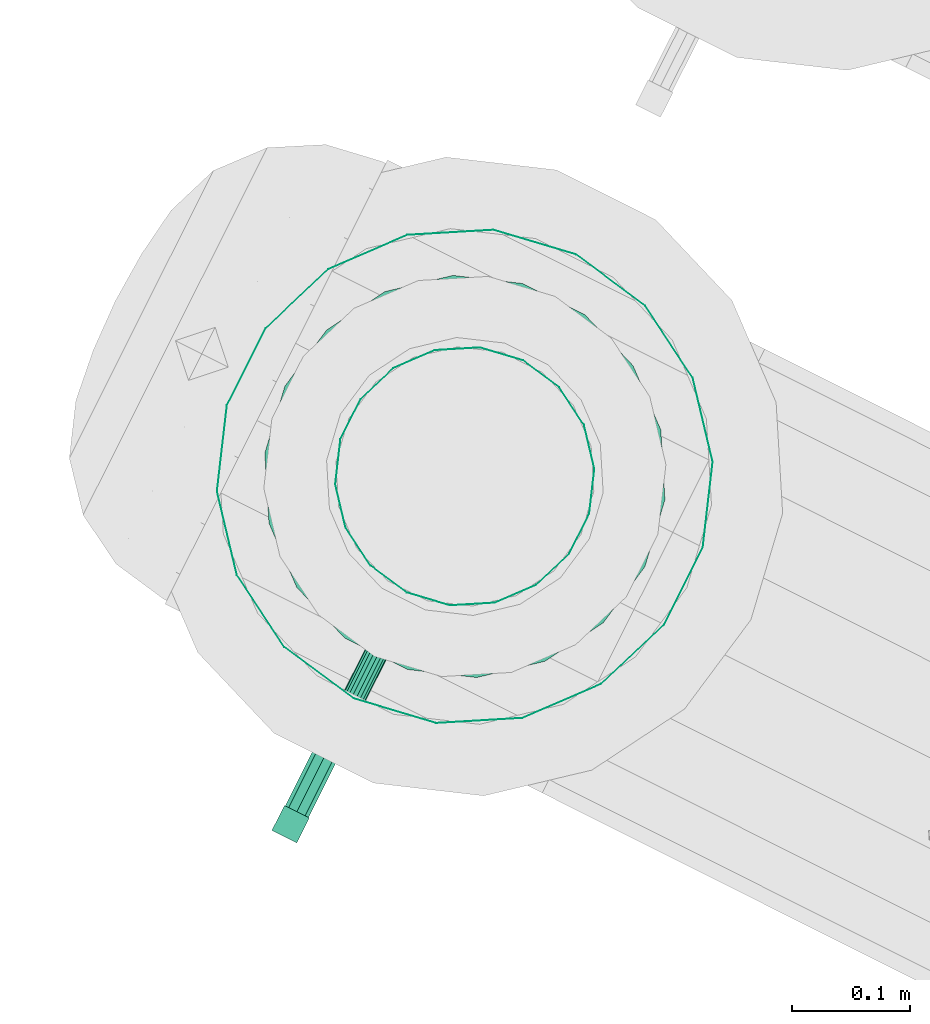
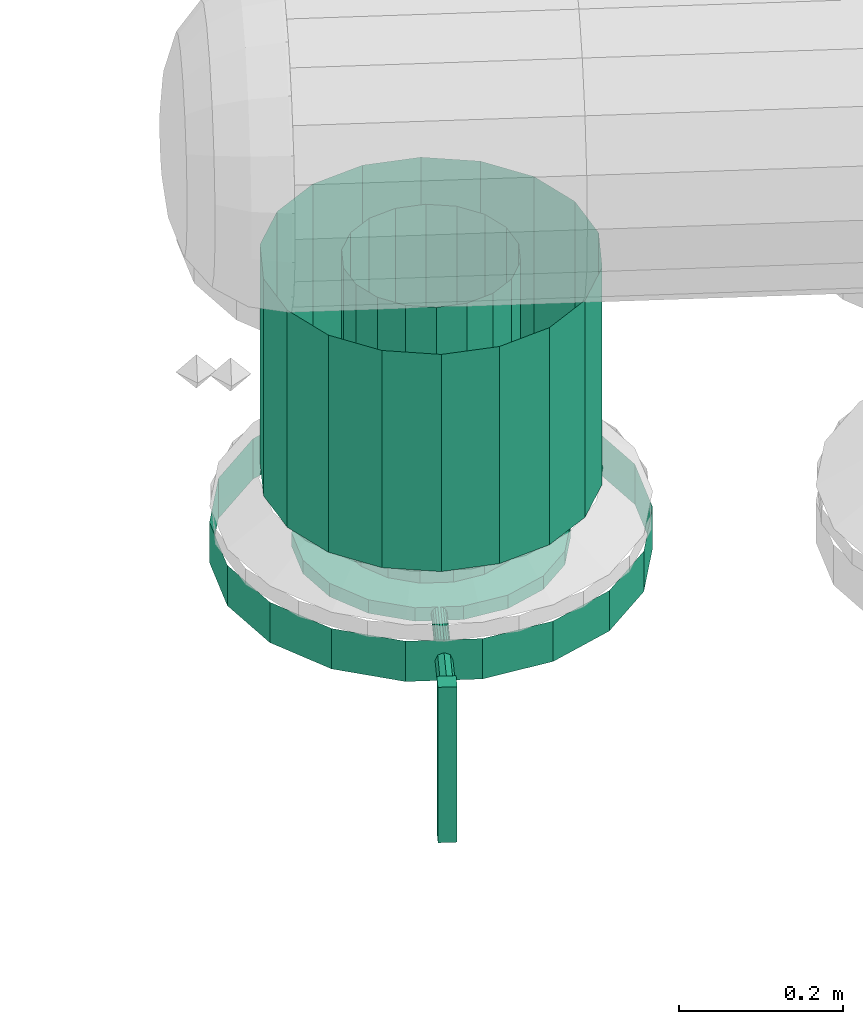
# One storey, part 88 of 152: 1 flow controller, 1 flow segment.
"""IFC2X3 building model written with IfcOpenShell, lengths in metres."""

from ifc_helpers import new_model, si_unit, derived_unit, direction, frame, origin, place, context, subcontext, project, spatial, face_set, surface_model, source, transform, mapped, material, type_object, type_shapes, element, save


model = new_model("IFC2X3")

# Units and contexts
model_context = context("Model", 3, precision=5.2338327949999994e-05, world=origin(), true_north=direction((0.0, 1.0)))
body_context = subcontext(model_context, "Body", "Model", "MODEL_VIEW")
ifc_project = project(units=[si_unit("LENGTHUNIT", "METRE"), si_unit("AREAUNIT", "SQUARE_METRE"), si_unit("VOLUMEUNIT", "CUBIC_METRE"), si_unit("MASSUNIT", "GRAM", prefix="KILO"), si_unit("PLANEANGLEUNIT", "RADIAN"), derived_unit("THERMALTRANSMITTANCEUNIT", [(si_unit("MASSUNIT", "GRAM", prefix="KILO"), 1), (si_unit("THERMODYNAMICTEMPERATUREUNIT", "KELVIN"), -1), (si_unit("TIMEUNIT", "SECOND"), -3)])], contexts=[model_context])

# Site, building, storey
site_placement = place(None, frame((0.0, 0.0, 0.0), z_axis=(0.0, 0.0, 1.0), x_axis=(0.8939966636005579, -0.4480736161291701, 0.0)))
site = spatial("IfcSite", under=ifc_project, at=site_placement, Name="Default", CompositionType="ELEMENT")
building_placement = place(site_placement, origin())
building = spatial("IfcBuilding", under=site, at=building_placement, CompositionType="ELEMENT")
storey_placement = place(building_placement, frame((0.0, 0.0, 2.7499999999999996)))
storey = spatial("IfcBuildingStorey", under=building, at=storey_placement, Name="1. Obergeschoss", CompositionType="ELEMENT", Elevation=2.7499999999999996)

# Flow controller
ifc_material = material(Name="IfcSurfaceStyle #9317")
distribution_element_type_1 = type_object("IfcDistributionElementType", Name="Zwischenflanschklappe 245512:Zwischenflanschklappe 245512", material=ifc_material)
shared_shape_1 = source(origin(), body_context, "Body", "SurfaceModel", [
    surface_model("IfcFaceBasedSurfaceModel", [(5.111016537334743, 7.010708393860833, 4.741522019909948), (5.111016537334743, 7.010708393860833, 4.9723720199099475), (5.1345165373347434, 7.010708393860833, 4.9723720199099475), (5.1345165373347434, 7.010708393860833, 4.741522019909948), (5.1345165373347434, 6.987208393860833, 4.9723720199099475), (5.1345165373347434, 6.987208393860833, 4.741522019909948), (5.111016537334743, 6.987208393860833, 4.9723720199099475), (5.111016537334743, 6.987208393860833, 4.741522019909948), (5.240266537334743, 7.3272083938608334, 4.930622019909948), (5.233180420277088, 7.367395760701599, 4.930622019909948), (5.233180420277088, 7.367395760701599, 4.9506220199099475), (5.240266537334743, 7.3272083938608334, 4.9506220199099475), (5.212776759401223, 7.402735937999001, 4.930622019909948), (5.212776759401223, 7.402735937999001, 4.9506220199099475), (5.181516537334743, 7.428966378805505, 4.930622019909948), (5.181516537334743, 7.428966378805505, 4.9506220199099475), (5.1431701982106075, 7.442923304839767, 4.930622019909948), (5.1431701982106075, 7.442923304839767, 4.9506220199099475), (5.102362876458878, 7.442923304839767, 4.930622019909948), (5.102362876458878, 7.442923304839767, 4.9506220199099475), (5.0640165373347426, 7.428966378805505, 4.930622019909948), (5.0640165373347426, 7.428966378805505, 4.9506220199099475), (5.032756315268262, 7.402735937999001, 4.930622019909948), (5.032756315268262, 7.402735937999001, 4.9506220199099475), (5.012352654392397, 7.367395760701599, 4.930622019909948), (5.012352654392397, 7.367395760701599, 4.9506220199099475), (5.005266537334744, 7.3272083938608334, 4.930622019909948), (5.005266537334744, 7.3272083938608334, 4.9506220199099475), (5.012352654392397, 7.287021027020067, 4.930622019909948), (5.012352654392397, 7.287021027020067, 4.9506220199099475), (5.032756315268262, 7.251680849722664, 4.930622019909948), (5.032756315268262, 7.251680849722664, 4.9506220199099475), (5.0640165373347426, 7.22545040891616, 4.930622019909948), (5.0640165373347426, 7.22545040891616, 4.9506220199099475), (5.102362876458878, 7.211493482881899, 4.930622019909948), (5.102362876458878, 7.211493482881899, 4.9506220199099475), (5.1431701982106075, 7.211493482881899, 4.930622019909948), (5.1431701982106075, 7.211493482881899, 4.9506220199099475), (5.181516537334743, 7.225450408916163, 4.930622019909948), (5.181516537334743, 7.225450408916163, 4.9506220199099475), (5.212776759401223, 7.251680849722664, 4.930622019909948), (5.212776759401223, 7.251680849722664, 4.9506220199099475), (5.233180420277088, 7.287021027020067, 4.930622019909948), (5.233180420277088, 7.287021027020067, 4.9506220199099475), (5.122766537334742, 7.3272083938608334, 4.930622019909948), (5.122766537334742, 7.3272083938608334, 4.9506220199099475), (5.292766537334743, 7.3272083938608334, 4.9506220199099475), (5.282514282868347, 7.385351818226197, 4.9506220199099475), (5.282514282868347, 7.385351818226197, 4.970622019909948), (5.292766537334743, 7.3272083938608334, 4.970622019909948), (5.252994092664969, 7.436482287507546, 4.9506220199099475), (5.252994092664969, 7.436482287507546, 4.970622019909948), (5.207766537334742, 7.4744327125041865, 4.9506220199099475), (5.207766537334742, 7.4744327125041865, 4.970622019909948), (5.152286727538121, 7.494625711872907, 4.9506220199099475), (5.152286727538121, 7.494625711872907, 4.970622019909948), (5.093246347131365, 7.494625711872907, 4.9506220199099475), (5.093246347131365, 7.494625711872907, 4.970622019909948), (5.037766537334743, 7.4744327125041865, 4.9506220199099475), (5.037766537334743, 7.4744327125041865, 4.970622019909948), (4.992538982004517, 7.436482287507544, 4.9506220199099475), (4.992538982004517, 7.436482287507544, 4.970622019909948), (4.9630187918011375, 7.385351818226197, 4.9506220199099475), (4.9630187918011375, 7.385351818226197, 4.970622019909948), (4.952766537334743, 7.3272083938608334, 4.9506220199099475), (4.952766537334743, 7.3272083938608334, 4.970622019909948), (4.9630187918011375, 7.269064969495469, 4.9506220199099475), (4.9630187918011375, 7.269064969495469, 4.970622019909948), (4.992538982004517, 7.21793450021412, 4.9506220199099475), (4.992538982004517, 7.21793450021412, 4.970622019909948), (5.037766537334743, 7.179984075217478, 4.9506220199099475), (5.037766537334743, 7.179984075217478, 4.970622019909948), (5.093246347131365, 7.159791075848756, 4.9506220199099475), (5.093246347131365, 7.159791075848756, 4.970622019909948), (5.152286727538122, 7.159791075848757, 4.9506220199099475), (5.152286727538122, 7.159791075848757, 4.970622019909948), (5.207766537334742, 7.179984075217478, 4.9506220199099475), (5.207766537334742, 7.179984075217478, 4.970622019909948), (5.252994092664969, 7.217934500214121, 4.9506220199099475), (5.252994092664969, 7.217934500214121, 4.970622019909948), (5.282514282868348, 7.269064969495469, 4.9506220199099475), (5.282514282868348, 7.269064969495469, 4.970622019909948), (5.122766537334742, 7.3272083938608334, 4.970622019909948), (5.240266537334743, 7.3272083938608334, 4.970622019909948), (5.233180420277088, 7.367395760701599, 4.970622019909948), (5.233180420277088, 7.367395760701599, 4.990622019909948), (5.240266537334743, 7.3272083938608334, 4.990622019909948), (5.212776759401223, 7.402735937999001, 4.970622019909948), (5.212776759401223, 7.402735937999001, 4.990622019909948), (5.181516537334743, 7.428966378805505, 4.970622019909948), (5.181516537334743, 7.428966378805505, 4.990622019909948), (5.1431701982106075, 7.442923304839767, 4.970622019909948), (5.1431701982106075, 7.442923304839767, 4.990622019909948), (5.102362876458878, 7.442923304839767, 4.970622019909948), (5.102362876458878, 7.442923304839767, 4.990622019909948), (5.0640165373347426, 7.428966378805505, 4.970622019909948), (5.0640165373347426, 7.428966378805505, 4.990622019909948), (5.032756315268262, 7.402735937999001, 4.970622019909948), (5.032756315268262, 7.402735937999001, 4.990622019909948), (5.012352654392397, 7.367395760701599, 4.970622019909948), (5.012352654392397, 7.367395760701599, 4.990622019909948), (5.005266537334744, 7.3272083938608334, 4.970622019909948), (5.005266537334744, 7.3272083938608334, 4.990622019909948), (5.012352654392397, 7.287021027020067, 4.970622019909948), (5.012352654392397, 7.287021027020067, 4.990622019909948), (5.032756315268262, 7.251680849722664, 4.970622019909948), (5.032756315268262, 7.251680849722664, 4.990622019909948), (5.0640165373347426, 7.22545040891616, 4.970622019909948), (5.0640165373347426, 7.22545040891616, 4.990622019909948), (5.102362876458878, 7.211493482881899, 4.970622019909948), (5.102362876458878, 7.211493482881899, 4.990622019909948), (5.1431701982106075, 7.211493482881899, 4.970622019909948), (5.1431701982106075, 7.211493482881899, 4.990622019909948), (5.181516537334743, 7.225450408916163, 4.970622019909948), (5.181516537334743, 7.225450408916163, 4.990622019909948), (5.212776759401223, 7.251680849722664, 4.970622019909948), (5.212776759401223, 7.251680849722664, 4.990622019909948), (5.233180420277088, 7.287021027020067, 4.970622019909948), (5.233180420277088, 7.287021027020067, 4.990622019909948), (5.122766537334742, 7.3272083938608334, 4.990622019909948), (5.132766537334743, 7.3272083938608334, 4.960622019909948), (5.132163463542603, 7.3272083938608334, 4.964042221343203), (5.132163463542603, 7.083958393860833, 4.964042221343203), (5.132766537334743, 7.083958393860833, 4.960622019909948), (5.1304269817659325, 7.3272083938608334, 4.967049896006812), (5.1304269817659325, 7.083958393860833, 4.967049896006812), (5.127766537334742, 7.3272083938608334, 4.969282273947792), (5.127766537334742, 7.083958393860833, 4.969282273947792), (5.124503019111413, 7.3272083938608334, 4.97047009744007), (5.124503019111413, 7.083958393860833, 4.97047009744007), (5.121030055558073, 7.3272083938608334, 4.97047009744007), (5.121030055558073, 7.083958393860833, 4.97047009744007), (5.117766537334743, 7.3272083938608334, 4.969282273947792), (5.117766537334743, 7.083958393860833, 4.969282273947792), (5.115106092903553, 7.3272083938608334, 4.967049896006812), (5.115106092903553, 7.083958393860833, 4.967049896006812), (5.113369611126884, 7.3272083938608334, 4.964042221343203), (5.113369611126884, 7.083958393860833, 4.964042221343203), (5.1127665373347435, 7.3272083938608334, 4.960622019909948), (5.1127665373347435, 7.083958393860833, 4.960622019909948), (5.113369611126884, 7.3272083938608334, 4.957201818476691), (5.113369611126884, 7.083958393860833, 4.957201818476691), (5.115106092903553, 7.3272083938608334, 4.9541941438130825), (5.115106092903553, 7.083958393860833, 4.9541941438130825), (5.117766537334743, 7.3272083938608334, 4.951961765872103), (5.117766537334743, 7.083958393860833, 4.951961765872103), (5.121030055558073, 7.3272083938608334, 4.950773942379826), (5.121030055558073, 7.083958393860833, 4.950773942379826), (5.124503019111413, 7.3272083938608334, 4.950773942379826), (5.124503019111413, 7.083958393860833, 4.950773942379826), (5.127766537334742, 7.3272083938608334, 4.951961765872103), (5.127766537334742, 7.083958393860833, 4.951961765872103), (5.1304269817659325, 7.3272083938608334, 4.9541941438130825), (5.1304269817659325, 7.083958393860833, 4.9541941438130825), (5.132163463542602, 7.3272083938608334, 4.957201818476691), (5.132163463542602, 7.083958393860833, 4.957201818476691), (5.122766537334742, 7.3272083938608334, 4.960622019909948), (5.122766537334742, 7.083958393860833, 4.960622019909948), (5.133721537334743, 7.083958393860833, 4.960622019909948), (5.130512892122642, 7.083958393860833, 4.968368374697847), (5.130512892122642, 7.010708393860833, 4.968368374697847), (5.133721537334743, 7.010708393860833, 4.960622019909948), (5.122766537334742, 7.083958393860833, 4.971577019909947), (5.122766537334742, 7.010708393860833, 4.971577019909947), (5.115020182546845, 7.083958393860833, 4.968368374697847), (5.115020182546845, 7.010708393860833, 4.968368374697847), (5.111811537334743, 7.083958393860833, 4.960622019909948), (5.111811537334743, 7.010708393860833, 4.960622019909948), (5.115020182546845, 7.083958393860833, 4.952875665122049), (5.115020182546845, 7.010708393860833, 4.952875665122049), (5.122766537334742, 7.083958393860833, 4.949667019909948), (5.122766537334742, 7.010708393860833, 4.949667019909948), (5.130512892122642, 7.083958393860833, 4.952875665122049), (5.130512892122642, 7.010708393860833, 4.952875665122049), (5.122766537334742, 7.010708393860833, 4.960622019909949), (5.392766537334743, 7.3272083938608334, 4.930622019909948), (5.376483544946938, 7.419553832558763, 4.930622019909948), (5.376483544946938, 7.419553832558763, 4.990622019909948), (5.392766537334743, 7.3272083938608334, 4.990622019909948), (5.329598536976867, 7.500761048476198, 4.930622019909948), (5.329598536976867, 7.500761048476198, 4.990622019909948), (5.257766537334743, 7.561035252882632, 4.930622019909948), (5.257766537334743, 7.561035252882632, 4.990622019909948), (5.169651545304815, 7.593106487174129, 4.930622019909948), (5.169651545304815, 7.593106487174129, 4.990622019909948), (5.075881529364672, 7.593106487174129, 4.930622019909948), (5.075881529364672, 7.593106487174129, 4.990622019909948), (4.987766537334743, 7.561035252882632, 4.930622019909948), (4.987766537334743, 7.561035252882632, 4.990622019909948), (4.915934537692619, 7.500761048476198, 4.930622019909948), (4.915934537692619, 7.500761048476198, 4.990622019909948), (4.869049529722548, 7.419553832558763, 4.930622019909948), (4.869049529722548, 7.419553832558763, 4.990622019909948), (4.852766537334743, 7.3272083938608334, 4.930622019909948), (4.852766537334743, 7.3272083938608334, 4.990622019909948), (4.869049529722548, 7.234862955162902, 4.930622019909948), (4.869049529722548, 7.234862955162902, 4.990622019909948), (4.915934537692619, 7.153655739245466, 4.930622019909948), (4.915934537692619, 7.153655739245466, 4.990622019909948), (4.987766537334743, 7.093381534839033, 4.930622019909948), (4.987766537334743, 7.093381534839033, 4.990622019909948), (5.075881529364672, 7.061310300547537, 4.930622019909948), (5.075881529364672, 7.061310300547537, 4.990622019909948), (5.169651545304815, 7.061310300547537, 4.930622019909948), (5.169651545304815, 7.061310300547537, 4.990622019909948), (5.257766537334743, 7.093381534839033, 4.930622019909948), (5.257766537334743, 7.093381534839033, 4.990622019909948), (5.329598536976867, 7.153655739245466, 4.930622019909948), (5.329598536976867, 7.153655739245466, 4.990622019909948), (5.376483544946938, 7.234862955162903, 4.930622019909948), (5.376483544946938, 7.234862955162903, 4.990622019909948)], [face_set([[[0, 1, 2, 3]], [[3, 2, 4, 5]], [[5, 4, 6, 7]], [[7, 6, 1, 0]], [[0, 3, 5, 7]], [[6, 4, 2, 1]], [[8, 9, 10, 11]], [[9, 12, 13, 10]], [[12, 14, 15, 13]], [[14, 16, 17, 15]], [[16, 18, 19, 17]], [[18, 20, 21, 19]], [[20, 22, 23, 21]], [[22, 24, 25, 23]], [[24, 26, 27, 25]], [[26, 28, 29, 27]], [[28, 30, 31, 29]], [[30, 32, 33, 31]], [[32, 34, 35, 33]], [[34, 36, 37, 35]], [[36, 38, 39, 37]], [[38, 40, 41, 39]], [[40, 42, 43, 41]], [[42, 8, 11, 43]], [[44, 9, 8]], [[44, 12, 9]], [[44, 14, 12]], [[44, 16, 14]], [[44, 18, 16]], [[44, 20, 18]], [[44, 22, 20]], [[44, 24, 22]], [[44, 26, 24]], [[44, 28, 26]], [[44, 30, 28]], [[44, 32, 30]], [[44, 34, 32]], [[44, 36, 34]], [[44, 38, 36]], [[44, 40, 38]], [[44, 42, 40]], [[44, 8, 42]], [[45, 43, 11]], [[45, 41, 43]], [[45, 39, 41]], [[45, 37, 39]], [[45, 35, 37]], [[45, 33, 35]], [[45, 31, 33]], [[45, 29, 31]], [[45, 27, 29]], [[45, 25, 27]], [[45, 23, 25]], [[45, 21, 23]], [[45, 19, 21]], [[45, 17, 19]], [[45, 15, 17]], [[45, 13, 15]], [[45, 10, 13]], [[45, 11, 10]], [[46, 47, 48, 49]], [[47, 50, 51, 48]], [[50, 52, 53, 51]], [[52, 54, 55, 53]], [[54, 56, 57, 55]], [[56, 58, 59, 57]], [[58, 60, 61, 59]], [[60, 62, 63, 61]], [[62, 64, 65, 63]], [[64, 66, 67, 65]], [[66, 68, 69, 67]], [[68, 70, 71, 69]], [[70, 72, 73, 71]], [[72, 74, 75, 73]], [[74, 76, 77, 75]], [[76, 78, 79, 77]], [[78, 80, 81, 79]], [[80, 46, 49, 81]], [[45, 47, 46]], [[45, 50, 47]], [[45, 52, 50]], [[45, 54, 52]], [[45, 56, 54]], [[45, 58, 56]], [[45, 60, 58]], [[45, 62, 60]], [[45, 64, 62]], [[45, 66, 64]], [[45, 68, 66]], [[45, 70, 68]], [[45, 72, 70]], [[45, 74, 72]], [[45, 76, 74]], [[45, 78, 76]], [[45, 80, 78]], [[45, 46, 80]], [[82, 81, 49]], [[82, 79, 81]], [[82, 77, 79]], [[82, 75, 77]], [[82, 73, 75]], [[82, 71, 73]], [[82, 69, 71]], [[82, 67, 69]], [[82, 65, 67]], [[82, 63, 65]], [[82, 61, 63]], [[82, 59, 61]], [[82, 57, 59]], [[82, 55, 57]], [[82, 53, 55]], [[82, 51, 53]], [[82, 48, 51]], [[82, 49, 48]], [[83, 84, 85, 86]], [[84, 87, 88, 85]], [[87, 89, 90, 88]], [[89, 91, 92, 90]], [[91, 93, 94, 92]], [[93, 95, 96, 94]], [[95, 97, 98, 96]], [[97, 99, 100, 98]], [[99, 101, 102, 100]], [[101, 103, 104, 102]], [[103, 105, 106, 104]], [[105, 107, 108, 106]], [[107, 109, 110, 108]], [[109, 111, 112, 110]], [[111, 113, 114, 112]], [[113, 115, 116, 114]], [[115, 117, 118, 116]], [[117, 83, 86, 118]], [[82, 84, 83]], [[82, 87, 84]], [[82, 89, 87]], [[82, 91, 89]], [[82, 93, 91]], [[82, 95, 93]], [[82, 97, 95]], [[82, 99, 97]], [[82, 101, 99]], [[82, 103, 101]], [[82, 105, 103]], [[82, 107, 105]], [[82, 109, 107]], [[82, 111, 109]], [[82, 113, 111]], [[82, 115, 113]], [[82, 117, 115]], [[82, 83, 117]], [[119, 118, 86]], [[119, 116, 118]], [[119, 114, 116]], [[119, 112, 114]], [[119, 110, 112]], [[119, 108, 110]], [[119, 106, 108]], [[119, 104, 106]], [[119, 102, 104]], [[119, 100, 102]], [[119, 98, 100]], [[119, 96, 98]], [[119, 94, 96]], [[119, 92, 94]], [[119, 90, 92]], [[119, 88, 90]], [[119, 85, 88]], [[119, 86, 85]], [[120, 121, 122, 123]], [[121, 124, 125, 122]], [[124, 126, 127, 125]], [[126, 128, 129, 127]], [[128, 130, 131, 129]], [[130, 132, 133, 131]], [[132, 134, 135, 133]], [[134, 136, 137, 135]], [[136, 138, 139, 137]], [[138, 140, 141, 139]], [[140, 142, 143, 141]], [[142, 144, 145, 143]], [[144, 146, 147, 145]], [[146, 148, 149, 147]], [[148, 150, 151, 149]], [[150, 152, 153, 151]], [[152, 154, 155, 153]], [[154, 120, 123, 155]], [[156, 121, 120]], [[156, 124, 121]], [[156, 126, 124]], [[156, 128, 126]], [[156, 130, 128]], [[156, 132, 130]], [[156, 134, 132]], [[156, 136, 134]], [[156, 138, 136]], [[156, 140, 138]], [[156, 142, 140]], [[156, 144, 142]], [[156, 146, 144]], [[156, 148, 146]], [[156, 150, 148]], [[156, 152, 150]], [[156, 154, 152]], [[156, 120, 154]], [[157, 155, 123]], [[157, 153, 155]], [[157, 151, 153]], [[157, 149, 151]], [[157, 147, 149]], [[157, 145, 147]], [[157, 143, 145]], [[157, 141, 143]], [[157, 139, 141]], [[157, 137, 139]], [[157, 135, 137]], [[157, 133, 135]], [[157, 131, 133]], [[157, 129, 131]], [[157, 127, 129]], [[157, 125, 127]], [[157, 122, 125]], [[157, 123, 122]], [[158, 159, 160, 161]], [[159, 162, 163, 160]], [[162, 164, 165, 163]], [[164, 166, 167, 165]], [[166, 168, 169, 167]], [[168, 170, 171, 169]], [[170, 172, 173, 171]], [[172, 158, 161, 173]], [[174, 173, 161]], [[174, 171, 173]], [[174, 169, 171]], [[174, 167, 169]], [[174, 165, 167]], [[174, 163, 165]], [[174, 160, 163]], [[174, 161, 160]], [[175, 176, 177, 178]], [[176, 179, 180, 177]], [[179, 181, 182, 180]], [[181, 183, 184, 182]], [[183, 185, 186, 184]], [[185, 187, 188, 186]], [[187, 189, 190, 188]], [[189, 191, 192, 190]], [[191, 193, 194, 192]], [[193, 195, 196, 194]], [[195, 197, 198, 196]], [[197, 199, 200, 198]], [[199, 201, 202, 200]], [[201, 203, 204, 202]], [[203, 205, 206, 204]], [[205, 207, 208, 206]], [[207, 209, 210, 208]], [[209, 175, 178, 210]]])]),
])
type_shapes(distribution_element_type_1, [shared_shape_1])
flow_controller_placement = place(storey_placement, frame((0.0, 0.0, -2.7499999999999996)))
element("IfcFlowController", 1, at=flow_controller_placement, inside=storey, type_object=distribution_element_type_1, material=ifc_material, Name="Zwischenflanschklappe", ObjectType="Zwischenflanschklappe", context=body_context, shape_type="MappedRepresentation", body=[
    mapped(shared_shape_1, transform((0.0, 0.0, 0.0), scale=1.0)),
])

# Flow segment
distribution_element_type_2 = type_object("IfcDistributionElementType", Name="Stahlrohr nach DIN 2448 245535:Stahlrohr nach DIN 2448 245535", material=ifc_material)
shared_shape_2 = source(origin(), body_context, "Body", "SurfaceModel", [
    surface_model("IfcFaceBasedSurfaceModel", [(5.122766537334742, 7.217658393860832, 5.375028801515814), (5.085298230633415, 7.224265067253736, 5.375028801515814), (5.085298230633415, 7.224265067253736, 5.052622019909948), (5.122766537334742, 7.217658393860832, 5.052622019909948), (5.052349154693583, 7.243288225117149, 5.375028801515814), (5.052349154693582, 7.243288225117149, 5.052622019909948), (5.027893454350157, 7.272433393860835, 5.375028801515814), (5.027893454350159, 7.272433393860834, 5.052622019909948), (5.014880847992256, 7.30818523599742, 5.375028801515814), (5.014880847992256, 7.30818523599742, 5.052622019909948), (5.0148808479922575, 7.346231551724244, 5.375028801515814), (5.014880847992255, 7.346231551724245, 5.052622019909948), (5.027893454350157, 7.381983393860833, 5.375028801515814), (5.027893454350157, 7.381983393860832, 5.052622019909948), (5.052349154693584, 7.411128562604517, 5.375028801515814), (5.052349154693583, 7.411128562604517, 5.052622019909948), (5.085298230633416, 7.430151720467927, 5.375028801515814), (5.085298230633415, 7.430151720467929, 5.052622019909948), (5.122766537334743, 7.436758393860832, 5.375028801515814), (5.122766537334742, 7.436758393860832, 5.052622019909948), (5.16023484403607, 7.430151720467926, 5.375028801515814), (5.160234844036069, 7.430151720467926, 5.052622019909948), (5.193183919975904, 7.411128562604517, 5.375028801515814), (5.193183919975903, 7.411128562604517, 5.052622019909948), (5.217639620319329, 7.381983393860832, 5.375028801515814), (5.217639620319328, 7.381983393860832, 5.052622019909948), (5.230652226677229, 7.346231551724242, 5.375028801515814), (5.230652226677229, 7.3462315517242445, 5.052622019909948), (5.23065222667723, 7.30818523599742, 5.375028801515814), (5.23065222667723, 7.30818523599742, 5.052622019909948), (5.2176396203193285, 7.272433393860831, 5.375028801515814), (5.2176396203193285, 7.272433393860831, 5.052622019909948), (5.193183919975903, 7.243288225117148, 5.375028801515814), (5.193183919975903, 7.243288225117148, 5.052622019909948), (5.1602348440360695, 7.224265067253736, 5.375028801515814), (5.160234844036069, 7.224265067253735, 5.052622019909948), (5.122766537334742, 7.117658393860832, 5.375028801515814), (5.051096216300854, 7.130295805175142, 5.375028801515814), (5.051096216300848, 7.130295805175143, 5.052622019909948), (5.122766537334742, 7.117658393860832, 5.052622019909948), (4.988070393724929, 7.16668378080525, 5.375028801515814), (4.988070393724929, 7.16668378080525, 5.052622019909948), (4.941290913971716, 7.222433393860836, 5.375028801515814), (4.941290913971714, 7.2224333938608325, 5.052622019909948), (4.916400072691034, 7.290820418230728, 5.375028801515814), (4.916400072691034, 7.290820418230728, 5.052622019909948), (4.916400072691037, 7.363596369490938, 5.375028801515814), (4.916400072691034, 7.363596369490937, 5.052622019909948), (4.941290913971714, 7.4319833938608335, 5.375028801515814), (4.941290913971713, 7.431983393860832, 5.052622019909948), (4.9880703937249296, 7.487733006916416, 5.375028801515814), (4.988070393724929, 7.487733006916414, 5.052622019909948), (5.05109621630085, 7.52412098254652, 5.375028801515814), (5.051096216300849, 7.524120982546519, 5.052622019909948), (5.122766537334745, 7.536758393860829, 5.375028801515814), (5.122766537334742, 7.536758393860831, 5.052622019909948), (5.194436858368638, 7.5241209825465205, 5.375028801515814), (5.194436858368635, 7.524120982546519, 5.052622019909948), (5.257462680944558, 7.487733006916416, 5.375028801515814), (5.257462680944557, 7.487733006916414, 5.052622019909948), (5.304242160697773, 7.431983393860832, 5.375028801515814), (5.30424216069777, 7.431983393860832, 5.052622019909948), (5.329133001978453, 7.363596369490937, 5.375028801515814), (5.32913300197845, 7.363596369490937, 5.052622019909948), (5.32913300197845, 7.290820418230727, 5.375028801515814), (5.329133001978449, 7.290820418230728, 5.052622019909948), (5.304242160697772, 7.2224333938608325, 5.375028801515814), (5.304242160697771, 7.222433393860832, 5.052622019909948), (5.257462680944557, 7.16668378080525, 5.375028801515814), (5.257462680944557, 7.16668378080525, 5.052622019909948), (5.194436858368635, 7.130295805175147, 5.375028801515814), (5.1944368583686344, 7.130295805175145, 5.052622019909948)], [face_set([[[0, 1, 2, 3]], [[1, 4, 5, 2]], [[4, 6, 7, 5]], [[6, 8, 9, 7]], [[8, 10, 11, 9]], [[10, 12, 13, 11]], [[12, 14, 15, 13]], [[14, 16, 17, 15]], [[16, 18, 19, 17]], [[18, 20, 21, 19]], [[20, 22, 23, 21]], [[22, 24, 25, 23]], [[24, 26, 27, 25]], [[26, 28, 29, 27]], [[28, 30, 31, 29]], [[30, 32, 33, 31]], [[32, 34, 35, 33]], [[34, 0, 3, 35]], [[36, 37, 38, 39]], [[37, 40, 41, 38]], [[40, 42, 43, 41]], [[42, 44, 45, 43]], [[44, 46, 47, 45]], [[46, 48, 49, 47]], [[48, 50, 51, 49]], [[50, 52, 53, 51]], [[52, 54, 55, 53]], [[54, 56, 57, 55]], [[56, 58, 59, 57]], [[58, 60, 61, 59]], [[60, 62, 63, 61]], [[62, 64, 65, 63]], [[64, 66, 67, 65]], [[66, 68, 69, 67]], [[68, 70, 71, 69]], [[70, 36, 39, 71]]])]),
])
type_shapes(distribution_element_type_2, [shared_shape_2])
flow_segment_placement = place(storey_placement, frame((0.0, 0.0, -2.7499999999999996)))
element("IfcFlowSegment", 2, at=flow_segment_placement, inside=storey, type_object=distribution_element_type_2, material=ifc_material, Name="Stahlrohr nach DIN 2448", ObjectType="Stahlrohr nach DIN 2448", context=body_context, shape_type="MappedRepresentation", body=[
    mapped(shared_shape_2, transform((0.0, 0.0, 0.0), scale=1.0)),
])

save(model, "model.ifc")
